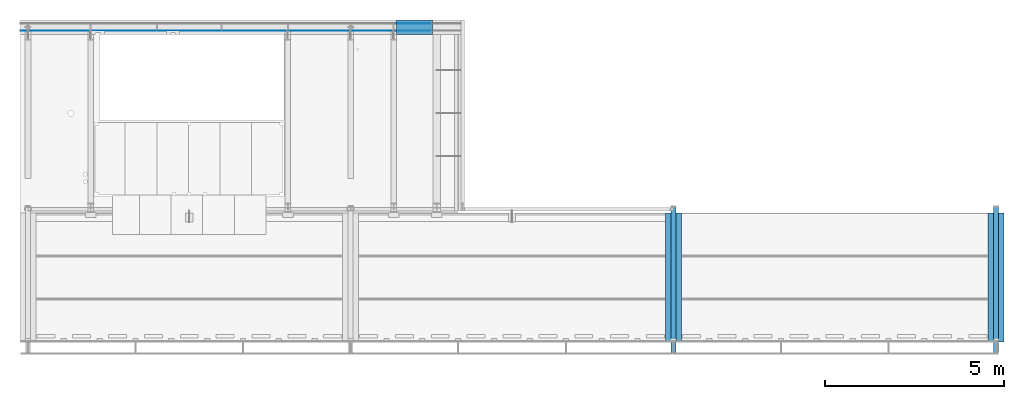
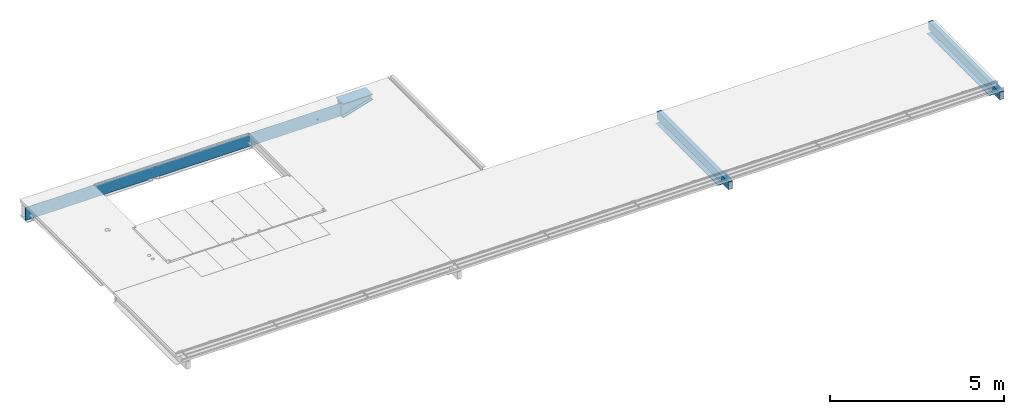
# One storey, part 2 of 13: 7 beams.
"""IFC2X3 building model written with IfcOpenShell, lengths in millimetres."""

from ifc_helpers import new_model, entity, si_unit, converted_unit, derived_unit, direction, frame, origin_with_axes, place, context, subcontext, project, spatial, faceted_brep, material, type_object, element, save


model = new_model("IFC2X3")

# Units and contexts
model_context = context("Model", 3, precision=0.01, world=frame((0.0, 4.29681676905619e-09, 0.0)), true_north=direction((4.01073788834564e-13, 1.0)))
plan_context = context("Plan", 3, precision=0.01, world=frame((0.0, 4.29681676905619e-09, 0.0)), true_north=direction((4.01073788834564e-13, 1.0)))
body_context = subcontext(model_context, "Body", "Model", "MODEL_VIEW")
ifc_project = project(units=[converted_unit("PLANEANGLEUNIT", "DEGREE", entity("IfcPositiveLengthMeasure", 0.0174532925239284), si_unit("PLANEANGLEUNIT", "RADIAN"), dimensions=[0, 0, 0, 0, 0, 0, 0]), si_unit("AREAUNIT", "SQUARE_METRE"), si_unit("LENGTHUNIT", "METRE", prefix="MILLI"), si_unit("MASSUNIT", "GRAM", prefix="KILO"), si_unit("POWERUNIT", "WATT"), si_unit("PRESSUREUNIT", "PASCAL", prefix="KILO"), si_unit("FORCEUNIT", "NEWTON", prefix="KILO"), si_unit("ELECTRICVOLTAGEUNIT", "VOLT"), si_unit("ELECTRICCURRENTUNIT", "AMPERE"), si_unit("THERMODYNAMICTEMPERATUREUNIT", "DEGREE_CELSIUS"), si_unit("TIMEUNIT", "SECOND"), si_unit("VOLUMEUNIT", "CUBIC_METRE"), derived_unit("LINEARVELOCITYUNIT", [(si_unit("LENGTHUNIT", "METRE"), 1), (si_unit("TIMEUNIT", "SECOND"), -1)]), derived_unit("VOLUMETRICFLOWRATEUNIT", [(si_unit("VOLUMEUNIT", "CUBIC_METRE"), 1), (si_unit("TIMEUNIT", "SECOND"), -1)]), derived_unit("THERMALTRANSMITTANCEUNIT", [(si_unit("POWERUNIT", "WATT"), 1), (si_unit("THERMODYNAMICTEMPERATUREUNIT", "KELVIN"), -1), (si_unit("AREAUNIT", "SQUARE_METRE"), -1)]), derived_unit("SOUNDPRESSUREUNIT", [(si_unit("PRESSUREUNIT", "PASCAL"), 1)])], contexts=[model_context, plan_context])

# Site, building, storey
site_placement = place(None, frame((0.0, -4.29681676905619e-09, 0.0), z_axis=(0.0, 0.0, 1.0), x_axis=(1.0, 0.0, 0.0)))
site = spatial("IfcSite", under=ifc_project, at=site_placement, Name="Gardermoen", CompositionType="ELEMENT")
building_placement = place(site_placement, frame((0.0, 4.29681676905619e-09, 0.0), z_axis=(0.0, 0.0, 1.0), x_axis=(1.0, 0.0, 0.0)))
building = spatial("IfcBuilding", under=site, at=building_placement, Name="TG", CompositionType="ELEMENT")
storey_placement = place(building_placement, origin_with_axes())
storey = spatial("IfcBuildingStorey", under=building, at=storey_placement, Name="G", CompositionType="ELEMENT", Elevation=0.0)

# Beams
ifc_material = material(Name="STEEL/S355")
beam_type_1 = type_object("IfcBeamType", Name="PL400*20", PredefinedType="NOTDEFINED")
beam_1_placement = place(storey_placement, frame((332280.000703, 467299.995625, 213560.0), z_axis=(0.0, 1.0, 0.0), x_axis=(1.0, 0.0, 0.0)))
element("IfcBeam", 1, at=beam_1_placement, inside=storey, type_object=beam_type_1, material=ifc_material, Name="STÅLBJELKE", ObjectType="PL400*20", context=body_context, shape_type="Brep", body=[
    faceted_brep([(0.0, 10.0, -200.0), (0.0, 10.0, 200.0), (999.999062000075, 10.0, 200.0), (999.999062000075, 10.0, -200.0), (0.0, -10.0, 200.0), (999.999062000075, -10.0, 200.0), (0.0, -10.0, -200.0), (999.999062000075, -10.0, -200.0)], [[[0, 1, 2, 3]], [[1, 4, 5, 2]], [[4, 6, 7, 5]], [[6, 0, 3, 7]], [[5, 7, 3, 2]], [[6, 4, 1, 0]]]),
])
beam_type_2 = type_object("IfcBeamType", Name="PL20*400", PredefinedType="NOTDEFINED")
beam_2_placement = place(storey_placement, frame((333279.999696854, 467499.995625, 213080.0), z_axis=(0.0, -1.0, 0.0), x_axis=(-1.0, 0.0, 0.0)))
element("IfcBeam", 2, at=beam_2_placement, inside=storey, type_object=beam_type_2, material=ifc_material, Name="STÅLBJELKE", ObjectType="PL20*400", context=body_context, shape_type="Brep", body=[
    faceted_brep([(0.0, -310.0, 0.0), (0.0, -310.0, 400.0), (0.0, -290.0, 400.0), (0.0, -290.0, 0.0), (999.999938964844, -10.0, 400.0), (999.999938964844, 10.0, 400.0), (999.999938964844, -10.0, 0.0), (999.999938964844, 10.0, 0.0)], [[[0, 1, 2, 3]], [[1, 4, 5, 2]], [[4, 6, 7, 5]], [[6, 0, 3, 7]], [[5, 7, 3, 2]], [[6, 4, 1, 0]]]),
])
beam_type_3 = type_object("IfcBeamType", Name="PL10*460", PredefinedType="NOTDEFINED")
for number, where, z_axis, x_axis in (
    (3, (332279.999765, 467399.995625, 213090.0), (1.0, 0.0, 0.0), (0.0, 0.0, 1.0)),
    (4, (332279.999765, 467199.995625, 213090.0), (1.0, 0.0, 0.0), (0.0, 0.0, 1.0)),
):
    element("IfcBeam", number, at=place(storey_placement, frame(where, z_axis=z_axis, x_axis=x_axis)), inside=storey, type_object=beam_type_3, material=ifc_material, Name="STÅLBJELKE", ObjectType="PL10*460", context=body_context, shape_type="Brep", body=[
        faceted_brep([(5.82076609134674e-11, -5.0, 2.91038304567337e-11), (300.0, -5.0, 1000.0), (300.0, 5.0, 1000.0), (5.82076609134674e-11, 5.0, 2.91038304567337e-11), (460.0, -5.0, 1000.0), (460.0, 5.0, 1000.0), (460.0, -5.0, 0.0), (460.0, 5.0, 0.0)], [[[0, 1, 2, 3]], [[1, 4, 5, 2]], [[4, 6, 7, 5]], [[6, 0, 3, 7]], [[5, 7, 3, 2]], [[6, 4, 1, 0]]]),
    ])
beam_type_4 = type_object("IfcBeamType", Name="PL460*10", PredefinedType="NOTDEFINED")
beam_3_placement = place(storey_placement, frame((320720.000703, 467200.004375, 213320.0), z_axis=(0.0, 0.0, 1.0), x_axis=(1.0, 0.0, 0.0)))
element("IfcBeam", 5, at=beam_3_placement, inside=storey, type_object=beam_type_4, Name="STÅLBJELKE", ObjectType="PL460*10", context=body_context, shape_type="Brep", body=[
    faceted_brep([(1074.74929700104, 5.0, 230.0), (1074.74929700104, 5.0, -230.0), (11559.9990620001, 5.0, -230.0), (11559.9990620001, 5.0, 230.0), (1074.74929700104, -5.0, 230.0), (11559.9990620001, -5.0, 230.0), (1074.74929700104, -5.0, -230.0), (11559.9990620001, -5.0, -230.0)], [[[0, 1, 2, 3]], [[4, 0, 3, 5]], [[6, 4, 5, 7]], [[1, 6, 7, 2]], [[3, 2, 7, 5]], [[4, 6, 1, 0]]], orient=[[False], [False], [False], [False], [False], [False]]),
])
beam_type_5 = type_object("IfcBeamType", Name="HQ265*5-40*130-12*440", PredefinedType="NOTDEFINED")
beam_4_placement = place(storey_placement, frame((349000.0, 462290.999973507, 213421.5), z_axis=(0.0, 0.0, 1.0), x_axis=(0.0, -1.0, 0.0)))
element("IfcBeam", 6, at=beam_4_placement, inside=storey, type_object=beam_type_5, material=ifc_material, Name="STÅLBJELKE", ObjectType="HQ265*5-40*130-12*440", context=body_context, shape_type="Brep", body=[
    faceted_brep([(3771.00006722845, 69.9999945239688, -126.5), (3771.00006722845, 69.9991684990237, -138.5), (3771.00006723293, 220.00000004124, -138.5), (3771.00006723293, 220.00000004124, -126.5), (4106.00003671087, 69.9990971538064, -126.5), (4105.9999735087, 69.9990971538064, -138.5), (171.000093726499, 220.000000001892, -126.5), (171.000093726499, 220.000000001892, -138.5), (171.000061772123, 69.9999351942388, -138.5), (171.000061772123, 69.9999351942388, -126.5), (171.000031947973, -69.9999999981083, -126.5), (171.0, -220.000034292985, -126.5), (3771.00000545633, -220.000002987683, -126.5), (3771.00000545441, -69.9999999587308, -126.5), (9.99999999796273, -69.9999999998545, -126.5), (9.99999999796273, -69.9999695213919, -138.5), (171.000031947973, -70.0000038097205, -138.5), (171.0, -220.000000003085, -138.5), (3771.00000545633, -220.000000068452, -138.5), (3771.00000545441, -70.0007705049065, -138.5), (4106.00000688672, -70.0008418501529, -126.5), (4105.99997350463, -70.0008418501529, -138.5), (4105.99997350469, -69.9999999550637, 138.5), (9.99999999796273, -69.9999999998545, 138.5), (10.0000000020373, 70.0000000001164, 138.5), (4105.9999735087, 70.0000000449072, 138.5), (10.0000000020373, 70.0000000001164, -126.5), (10.0000000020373, 69.9999694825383, -138.5), (10.0000000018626, 65.0000000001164, 98.5), (9.99999999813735, -64.9999999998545, 98.5), (9.99999999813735, -64.9999999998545, -126.5), (10.0000000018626, 65.0000000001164, -126.5), (4105.99997350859, 65.0000000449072, -126.5), (4105.99997350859, 65.0000000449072, 98.5), (4105.9999735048, -64.9999999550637, 98.5), (4105.9999735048, -64.9999999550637, -126.5)], [[[0, 1, 2, 3]], [[4, 5, 1, 0]], [[6, 7, 8, 9]], [[10, 11, 12, 13]], [[14, 15, 16, 10]], [[11, 10, 16, 17]], [[11, 17, 18, 12]], [[12, 18, 19, 13]], [[20, 13, 19, 21]], [[22, 23, 14, 10, 13, 20]], [[24, 23, 22, 25]], [[9, 26, 24, 25, 4, 0]], [[6, 9, 0, 3]], [[7, 6, 3, 2]], [[21, 19, 18, 17, 16, 15, 27, 8, 7, 2, 1, 5]], [[9, 8, 27, 26]], [[15, 14, 23, 24, 26, 27], [28, 29, 30, 31]], [[28, 31, 32, 33]], [[29, 28, 33, 34]], [[30, 29, 34, 35]], [[31, 30, 35, 32]], [[25, 22, 20, 21, 5, 4], [34, 33, 32, 35]]]),
])
beam_5_placement = place(storey_placement, frame((340000.0, 462290.999973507, 213421.5), z_axis=(0.0, 0.0, 1.0), x_axis=(0.0, -1.0, 0.0)))
element("IfcBeam", 7, at=beam_5_placement, inside=storey, type_object=beam_type_5, material=ifc_material, Name="STÅLBJELKE", ObjectType="HQ265*5-40*130-12*440", context=body_context, shape_type="Brep", body=[
    faceted_brep([(3771.00006722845, 69.9999945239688, -126.5), (3771.00006722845, 69.9991684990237, -138.5), (3771.00006723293, 220.00000004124, -138.5), (3771.00006723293, 220.00000004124, -126.5), (4106.00003671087, 69.9990971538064, -126.5), (4105.9999735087, 69.9990971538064, -138.5), (171.000093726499, 220.000000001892, -126.5), (171.000093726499, 220.000000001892, -138.5), (171.000061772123, 69.9999351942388, -138.5), (171.000061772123, 69.9999351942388, -126.5), (171.000031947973, -69.9999999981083, -126.5), (171.0, -220.000034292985, -126.5), (3771.00000545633, -220.000002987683, -126.5), (3771.00000545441, -69.9999999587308, -126.5), (9.99999999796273, -69.9999999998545, -126.5), (9.99999999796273, -69.9999695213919, -138.5), (171.000031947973, -70.0000038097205, -138.5), (171.0, -220.000000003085, -138.5), (3771.00000545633, -220.000000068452, -138.5), (3771.00000545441, -70.0007705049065, -138.5), (4106.00000688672, -70.0008418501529, -126.5), (4105.99997350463, -70.0008418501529, -138.5), (4105.99997350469, -69.9999999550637, 138.5), (9.99999999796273, -69.9999999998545, 138.5), (10.0000000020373, 70.0000000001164, 138.5), (4105.9999735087, 70.0000000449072, 138.5), (10.0000000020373, 70.0000000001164, -126.5), (10.0000000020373, 69.9999694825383, -138.5), (10.0000000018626, 65.0000000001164, 98.5), (9.99999999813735, -64.9999999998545, 98.5), (9.99999999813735, -64.9999999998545, -126.5), (10.0000000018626, 65.0000000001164, -126.5), (4105.99997350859, 65.0000000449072, -126.5), (4105.99997350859, 65.0000000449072, 98.5), (4105.9999735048, -64.9999999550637, 98.5), (4105.9999735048, -64.9999999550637, -126.5)], [[[0, 1, 2, 3]], [[4, 5, 1, 0]], [[6, 7, 8, 9]], [[10, 11, 12, 13]], [[14, 15, 16, 10]], [[11, 10, 16, 17]], [[11, 17, 18, 12]], [[12, 18, 19, 13]], [[20, 13, 19, 21]], [[22, 23, 14, 10, 13, 20]], [[24, 23, 22, 25]], [[9, 26, 24, 25, 4, 0]], [[6, 9, 0, 3]], [[7, 6, 3, 2]], [[21, 19, 18, 17, 16, 15, 27, 8, 7, 2, 1, 5]], [[9, 8, 27, 26]], [[15, 14, 23, 24, 26, 27], [28, 29, 30, 31]], [[28, 31, 32, 33]], [[29, 28, 33, 34]], [[30, 29, 34, 35]], [[31, 30, 35, 32]], [[25, 22, 20, 21, 5, 4], [34, 33, 32, 35]]]),
])

save(model, "model.ifc")
